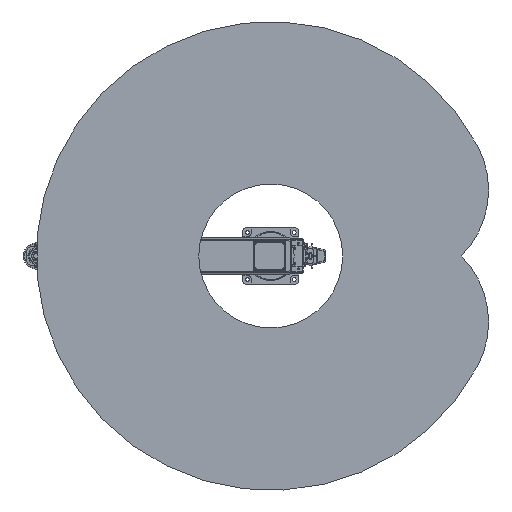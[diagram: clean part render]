
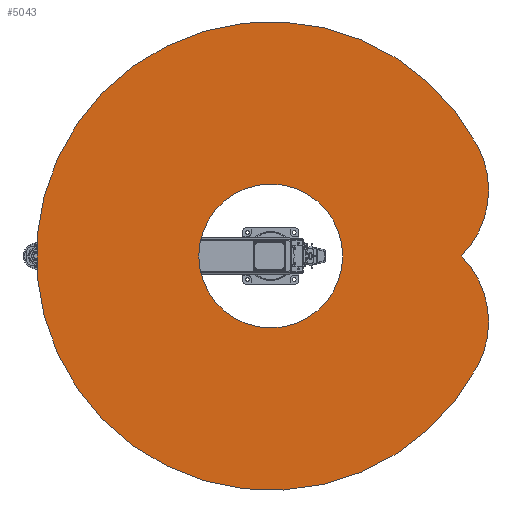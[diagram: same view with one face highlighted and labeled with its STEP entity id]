
A CAD part, front view. The second image highlights one B-rep face of the part: STEP entity #5043.
In plain terms, the highlighted planar face has unit normal (0, -1, 0).
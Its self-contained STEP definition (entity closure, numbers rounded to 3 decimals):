
#5043 = ADVANCED_FACE( '', ( #11717, #11718 ), #11719, .F. );
#11717 = FACE_BOUND( '', #20760, .T. );
#11718 = FACE_OUTER_BOUND( '', #20761, .T. );
#11719 = PLANE( '', #20762 );
#20760 = EDGE_LOOP( '', ( #35443 ) );
#20761 = EDGE_LOOP( '', ( #35444, #35445, #35446 ) );
#20762 = AXIS2_PLACEMENT_3D( '', #35447, #35448, #35449 );
#35443 = ORIENTED_EDGE( '', *, *, #51225, .T. );
#35444 = ORIENTED_EDGE( '', *, *, #49393, .F. );
#35445 = ORIENTED_EDGE( '', *, *, #47112, .F. );
#35446 = ORIENTED_EDGE( '', *, *, #49154, .F. );
#35447 = CARTESIAN_POINT( '', ( 140.842, 0., 264.885 ) );
#35448 = DIRECTION( '', ( 0., 1., 0. ) );
#35449 = DIRECTION( '', ( 0., 0., 1. ) );
#47112 = EDGE_CURVE( '', #55781, #55782, #55783, .T. );
#49154 = EDGE_CURVE( '', #59198, #55781, #59199, .T. );
#49393 = EDGE_CURVE( '', #55782, #59198, #59572, .T. );
#51225 = EDGE_CURVE( '', #62285, #62285, #62286, .T. );
#55781 = VERTEX_POINT( '', #68875 );
#55782 = VERTEX_POINT( '', #68876 );
#55783 = CIRCLE( '', #68877, 400. );
#59198 = VERTEX_POINT( '', #75078 );
#59199 = CIRCLE( '', #75079, 1000. );
#59572 = CIRCLE( '', #75610, 400. );
#62285 = VERTEX_POINT( '', #79923 );
#62286 = CIRCLE( '', #79924, 307. );
#68875 = CARTESIAN_POINT( '', ( -468.809, 0., 883.299 ) );
#68876 = CARTESIAN_POINT( '', ( 0., 0., 813.767 ) );
#68877 = AXIS2_PLACEMENT_3D( '', #86557, #86558, #86559 );
#75078 = CARTESIAN_POINT( '', ( 468.809, 0., 883.299 ) );
#75079 = AXIS2_PLACEMENT_3D( '', #89034, #89035, #89036 );
#75610 = AXIS2_PLACEMENT_3D( '', #89357, #89358, #89359 );
#79923 = CARTESIAN_POINT( '', ( 307., 0., 0. ) );
#79924 = AXIS2_PLACEMENT_3D( '', #91515, #91516, #91517 );
#86557 = CARTESIAN_POINT( '', ( -281.683, 0., 529.769 ) );
#86558 = DIRECTION( '', ( 0., 1., 0. ) );
#86559 = DIRECTION( '', ( 1., 0., 0. ) );
#89034 = CARTESIAN_POINT( '', ( 0., 0., 0. ) );
#89035 = DIRECTION( '', ( 0., 1., 0. ) );
#89036 = DIRECTION( '', ( 1., 0., 0. ) );
#89357 = CARTESIAN_POINT( '', ( 281.683, 0., 529.769 ) );
#89358 = DIRECTION( '', ( 0., 1., 0. ) );
#89359 = DIRECTION( '', ( 1., 0., 0. ) );
#91515 = CARTESIAN_POINT( '', ( 0., 0., 0. ) );
#91516 = DIRECTION( '', ( 0., 1., 0. ) );
#91517 = DIRECTION( '', ( 1., 0., 0. ) );
